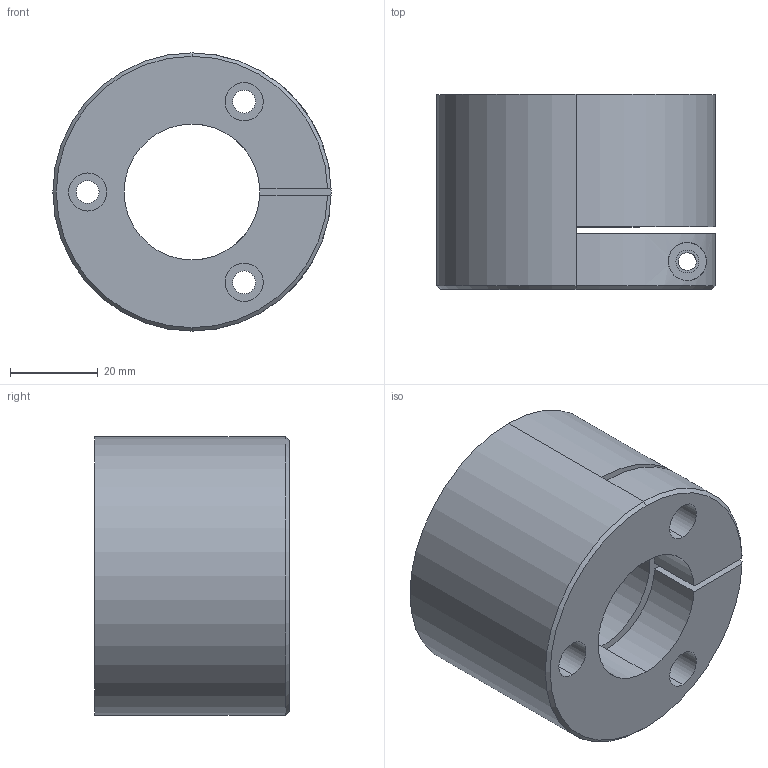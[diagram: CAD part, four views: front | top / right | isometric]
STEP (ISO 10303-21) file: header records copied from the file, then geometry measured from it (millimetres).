
FILE_DESCRIPTION (( 'STEP AP214' ), '1' );
FILE_NAME ('TC-25-1.STEP', '2016-12-21T21:16:12', ( '' ), ( '' ), 'SwSTEP 2.0', 'SolidWorks 2016', '' );
FILE_SCHEMA (( 'AUTOMOTIVE_DESIGN' ));
Length unit declared in the file: inch
Products named in the file (1): TC-25-1
Bounding box: 63.5 x 44.45 x 63.5 mm (x, y, z)
Volume: 98249.8 mm3; surface area: 24111.7 mm2
Topology: 1 solids, 1 shells, 58 faces, 137 edges, 88 vertices
Faces by surface type: cylinder 38, plane 17, cone 3
Entity records: 1896 total; most frequent: CARTESIAN_POINT 424, DIRECTION 324, ORIENTED_EDGE 274, EDGE_CURVE 137, AXIS2_PLACEMENT_3D 134, VERTEX_POINT 88, EDGE_LOOP 81, CIRCLE 75
